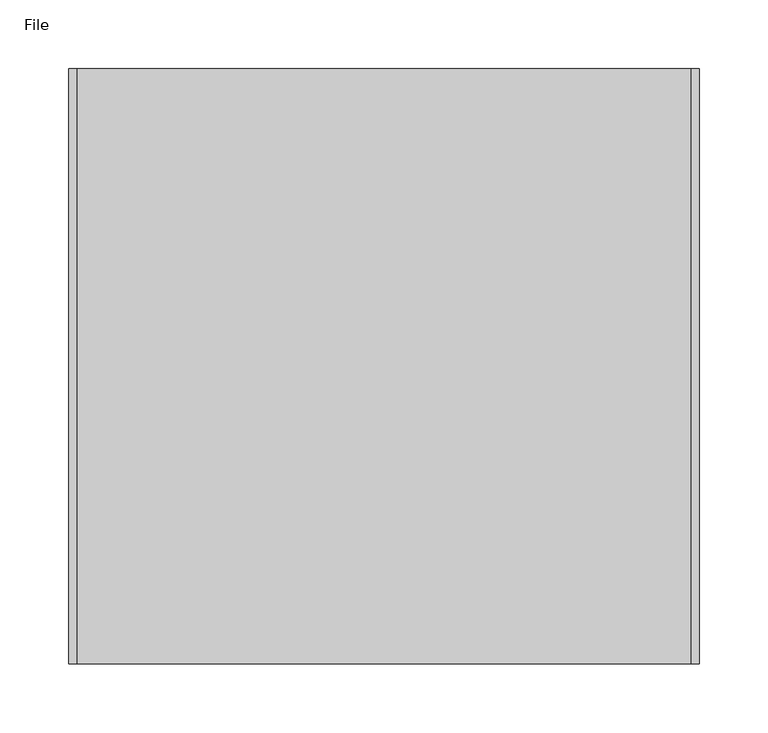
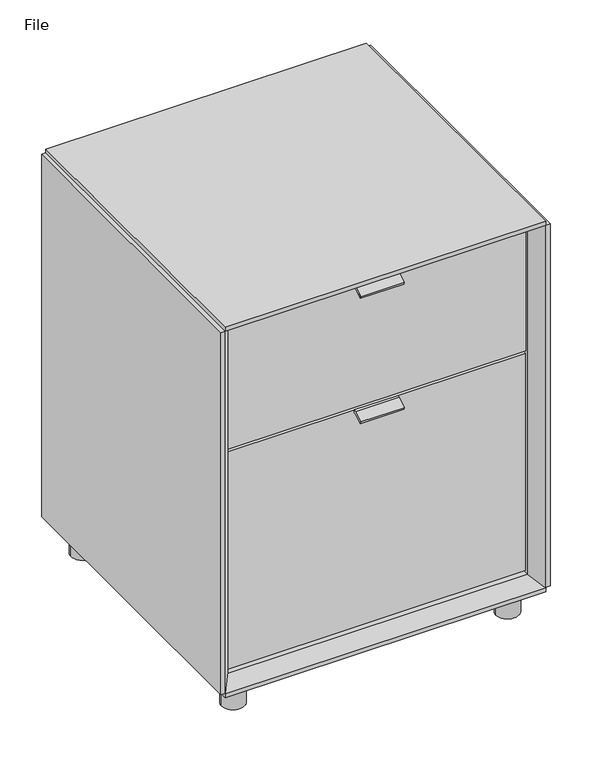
"""IFC4 building model written with IfcOpenShell, lengths in millimetres: furniture geometry, Blu Dot - Dang - File Pedestal : File."""

import ifcopenshell
import ifcopenshell.guid

model = None  # the IFC model being written
_history = None  # IfcOwnerHistory: only IFC2X3 demands one
_inside = {}  # id of a spatial element -> (the spatial element, [elements in it])
_under = {}  # id of a project, library or spatial element -> (it, [spatial elements below it])
_declared = {}  # id of a project -> (the project, [libraries it declares])
_typed = {}  # id of a type object -> (the type object, [elements of that type])
_made_of = {}  # id of a material, layer set ... -> (it, [elements and type objects made of it])


def new_model(schema):
    """Start an empty IFC model of exactly this schema.

    Asked for "IFC4X3", IfcOpenShell would pick the latest addendum, in which some entities
    have other attributes; the version numbers below select the first issue.
    IFC2X3 requires an IfcOwnerHistory on every rooted entity: one is made here for all.
    """
    global model, _history
    if schema == "IFC4X3":
        model = ifcopenshell.file(schema_version=(4, 3, 0, 0))
    else:
        model = ifcopenshell.file(schema=schema)
    _inside.clear()
    _under.clear()
    _declared.clear()
    _typed.clear()
    _made_of.clear()
    _history = None
    if model.schema == "IFC2X3":
        org = make("IfcOrganization", Name="unknown")
        user = make(
            "IfcPersonAndOrganization",
            ThePerson=make("IfcPerson", FamilyName="unknown"),
            TheOrganization=org,
        )
        app = make(
            "IfcApplication",
            ApplicationDeveloper=org,
            Version="unknown",
            ApplicationFullName="unknown",
            ApplicationIdentifier="unknown",
        )
        _history = make(
            "IfcOwnerHistory",
            OwningUser=user,
            OwningApplication=app,
            ChangeAction="ADDED",
            CreationDate=0,
        )
    return model


def make(cls, **values):
    """One entity of the class cls with the attributes given. An attribute that is None is left unset."""
    return model.create_entity(
        cls, **{name: value for name, value in values.items() if value is not None}
    )


def rooted(cls, **values):
    """An entity with a GlobalId (a new one), such as an element, a storey or a relation."""
    return make(cls, GlobalId=ifcopenshell.guid.new(), OwnerHistory=_history, **values)


def si_unit(unit_type, name, prefix=None):
    """IfcSIUnit, for example si_unit("LENGTHUNIT", "METRE", prefix="MILLI")."""
    return make("IfcSIUnit", UnitType=unit_type, Prefix=prefix, Name=name)


def assignment(units):
    """IfcUnitAssignment: the units of a project."""
    return None if units is None else make("IfcUnitAssignment", Units=units)


def point(xyz):
    """IfcCartesianPoint."""
    return None if xyz is None else make("IfcCartesianPoint", Coordinates=xyz)


def direction(xyz):
    """IfcDirection."""
    return None if xyz is None else make("IfcDirection", DirectionRatios=xyz)


def frame(location, z_axis=None, x_axis=None):
    """IfcAxis2Placement3D, a coordinate frame: its origin and axes. An axis left out is left unset."""
    return make(
        "IfcAxis2Placement3D",
        Location=point(location),
        Axis=direction(z_axis),
        RefDirection=direction(x_axis),
    )


def frame_2d(location, x_axis=None):
    """IfcAxis2Placement2D, a coordinate frame in the plane: its origin and x axis."""
    return make(
        "IfcAxis2Placement2D", Location=point(location), RefDirection=direction(x_axis)
    )


def origin():
    """The frame at (0, 0, 0) with its axes left unset."""
    return frame((0.0, 0.0, 0.0))


def origin_with_axes():
    """The frame at (0, 0, 0) with the z axis (0, 0, 1) and the x axis (1, 0, 0) written out."""
    return frame((0.0, 0.0, 0.0), z_axis=(0.0, 0.0, 1.0), x_axis=(1.0, 0.0, 0.0))


def place(relative_to, where):
    """IfcLocalPlacement: puts the frame where relative to a parent placement (None: the world)."""
    return make(
        "IfcLocalPlacement", PlacementRelTo=relative_to, RelativePlacement=where
    )


def context(
    kind, dimensions, precision=None, world=None, true_north=None, identifier=None
):
    """IfcGeometricRepresentationContext, for example the 3D "Model" context."""
    return make(
        "IfcGeometricRepresentationContext",
        ContextIdentifier=identifier,
        ContextType=kind,
        CoordinateSpaceDimension=dimensions,
        Precision=precision,
        WorldCoordinateSystem=world,
        TrueNorth=true_north,
    )


def project(units=None, contexts=None):
    """IfcProject with its units and contexts."""
    return rooted(
        "IfcProject",
        Name="project",
        RepresentationContexts=contexts,
        UnitsInContext=assignment(units),
    )


def spatial(cls, under=None, at=None, **own):
    """A site, building, storey or space (cls), placed at a placement, below another one or the project."""
    s = rooted(cls, ObjectPlacement=at, **own)
    if under is not None:
        _under.setdefault(under.id(), (under, []))[1].append(s)
    return s


def polyline(points):
    """IfcPolyline through the points."""
    return make("IfcPolyline", Points=[point(p) for p in points])


def circle_curve(where, radius):
    """IfcCircle in the frame where."""
    return make("IfcCircle", Position=where, Radius=radius)


def trimmed(basis, trim1, trim2, sense, master):
    """IfcTrimmedCurve: the piece of a basis curve between two trims."""
    return make(
        "IfcTrimmedCurve",
        BasisCurve=basis,
        Trim1=trim1,
        Trim2=trim2,
        SenseAgreement=sense,
        MasterRepresentation=master,
    )


def segment(curve, same_sense, transition):
    """IfcCompositeCurveSegment."""
    return make(
        "IfcCompositeCurveSegment",
        Transition=transition,
        SameSense=same_sense,
        ParentCurve=curve,
    )


def composite_curve(segments, self_intersect=None):
    """IfcCompositeCurve: segments joined end to end."""
    return make("IfcCompositeCurve", Segments=segments, SelfIntersect=self_intersect)


def outline(outer, holes=None, kind="AREA"):
    """IfcArbitraryClosedProfileDef: a profile drawn as a closed curve; with holes, ...WithVoids."""
    if holes is None:
        return make("IfcArbitraryClosedProfileDef", ProfileType=kind, OuterCurve=outer)
    return make(
        "IfcArbitraryProfileDefWithVoids",
        ProfileType=kind,
        OuterCurve=outer,
        InnerCurves=holes,
    )


def extrude(swept, where, along, depth):
    """IfcExtrudedAreaSolid: the profile swept, set in the frame where, extruded along a direction by depth."""
    return make(
        "IfcExtrudedAreaSolid",
        SweptArea=swept,
        Position=where,
        ExtrudedDirection=direction(along),
        Depth=depth,
    )


def faces_of(points, faces, orient=None, outer=None):
    """IfcFace entities. A face is a list of loops; a loop is a list of indices into points, from 0.

    orient and outer hold one flag for each loop. By default every Orientation is true, the
    first loop of a face is its IfcFaceOuterBound and the others are IfcFaceBound.
    """
    made = []
    for i, loops in enumerate(faces):
        bounds = []
        for j, loop in enumerate(loops):
            is_outer = j == 0 if outer is None else outer[i][j]
            bounds.append(
                make(
                    "IfcFaceOuterBound" if is_outer else "IfcFaceBound",
                    Bound=make("IfcPolyLoop", Polygon=[points[k] for k in loop]),
                    Orientation=True if orient is None else orient[i][j],
                )
            )
        made.append(make("IfcFace", Bounds=bounds))
    return made


def faceted_brep(points, faces, orient=None, outer=None, voids=None):
    """IfcFacetedBrep: a solid bounded by flat faces; with voids (closed shells), ...WithVoids."""
    shared = [point(p) for p in points]
    hull = make("IfcClosedShell", CfsFaces=faces_of(shared, faces, orient, outer))
    if voids is None:
        return make("IfcFacetedBrep", Outer=hull)
    return make(
        "IfcFacetedBrepWithVoids",
        Outer=hull,
        Voids=[
            make(cls, CfsFaces=faces_of(shared, fs, o, b)) for cls, fs, o, b in voids
        ],
    )


def shape(context_of_items, identifier, shape_type, items):
    """IfcShapeRepresentation: the items that make up one representation, for example the "Body"."""
    return make(
        "IfcShapeRepresentation",
        ContextOfItems=context_of_items,
        RepresentationIdentifier=identifier,
        RepresentationType=shape_type,
        Items=items,
    )


def source(mapping_origin, context_of_items, identifier, shape_type, items):
    """IfcRepresentationMap: a shape defined once, which mapped items show again and again."""
    return make(
        "IfcRepresentationMap",
        MappingOrigin=mapping_origin,
        MappedRepresentation=shape(context_of_items, identifier, shape_type, items),
    )


def transform(
    local_origin,
    x_axis=None,
    y_axis=None,
    z_axis=None,
    scale=None,
    scale2=None,
    scale3=None,
    uniform=True,
):
    """IfcCartesianTransformationOperator3D, or its non-uniform kind. x_axis, y_axis, z_axis: its Axis1, 2, 3."""
    if uniform:
        return make(
            "IfcCartesianTransformationOperator3D",
            Axis1=direction(x_axis),
            Axis2=direction(y_axis),
            LocalOrigin=point(local_origin),
            Scale=scale,
            Axis3=direction(z_axis),
        )
    return make(
        "IfcCartesianTransformationOperator3DnonUniform",
        Axis1=direction(x_axis),
        Axis2=direction(y_axis),
        LocalOrigin=point(local_origin),
        Scale=scale,
        Axis3=direction(z_axis),
        Scale2=scale2,
        Scale3=scale3,
    )


def mapped(mapping_source, mapping_target):
    """IfcMappedItem: shows the shape of a source again, moved by a transform."""
    return make(
        "IfcMappedItem", MappingSource=mapping_source, MappingTarget=mapping_target
    )


def made_of(thing, what):
    """Note that an element or type object is made of a material, layer set ...; save() writes the relation."""
    if what is not None:
        _made_of.setdefault(what.id(), (what, []))[1].append(thing)
    return thing


def element(
    cls,
    number,
    at=None,
    inside=None,
    cuts=None,
    type_object=None,
    material=None,
    context=None,
    identifier="Body",
    shape_type=None,
    held_by="IfcProductDefinitionShape",
    body=None,
    shapes=None,
    **own,
):
    """One element of the class cls, such as IfcWall. Its Tag is "e" and its number.

    at: its placement. inside: the storey or other place that contains it. cuts: it is an
    opening in that element (IfcRelVoidsElement). A single representation is given by context,
    identifier, shape_type and body (its items); several are given by shapes. held_by: the class
    of the entity that holds the representations. save() writes the other relations.
    """
    e = rooted(cls, Tag="e%d" % number, ObjectPlacement=at, **own)
    if body is not None:
        shapes = [shape(context, identifier, shape_type, body)]
    if shapes is not None:
        e.Representation = make(held_by, Representations=shapes)
    if inside is not None:
        _inside.setdefault(inside.id(), (inside, []))[1].append(e)
    if cuts is not None:
        rooted(
            "IfcRelVoidsElement", RelatingBuildingElement=cuts, RelatedOpeningElement=e
        )
    if type_object is not None:
        _typed.setdefault(type_object.id(), (type_object, []))[1].append(e)
    return made_of(e, material)


def aggregate(whole, parts):
    """IfcRelAggregates: a whole, such as a stair, and the parts it consists of."""
    return rooted("IfcRelAggregates", RelatingObject=whole, RelatedObjects=parts)


def save(model, path):
    """Write the relations noted so far, then the file.

    IfcRelAggregates (storeys below a building ...), IfcRelContainedInSpatialStructure (elements
    in a storey), IfcRelDefinesByType, IfcRelAssociatesMaterial and IfcRelDeclares: one each for
    every whole, place, type object, material and project.
    """
    for whole, parts in _under.values():
        aggregate(whole, parts)
    for where, things in _inside.values():
        rooted(
            "IfcRelContainedInSpatialStructure",
            RelatedElements=things,
            RelatingStructure=where,
        )
    for kind, things in _typed.values():
        rooted("IfcRelDefinesByType", RelatedObjects=things, RelatingType=kind)
    for what, things in _made_of.values():
        rooted("IfcRelAssociatesMaterial", RelatedObjects=things, RelatingMaterial=what)
    for by, libraries in _declared.values():
        rooted("IfcRelDeclares", RelatingContext=by, RelatedDefinitions=libraries)
    model.write(path)


def file_2879ee58(model_context):
    return source(origin(), model_context, "Body", "SolidModel", [
        extrude(outline(polyline([(-412.2407166, 380.7942387), (-408.6708764, 381.5261307), (-408.6708764, 377.1162618), (-412.2407166, 376.3843698), (-423.0343294, 369.6979188), (-424.8980291, 373.6946358), (-412.2407166, 380.7942387)])), frame((198.3994054, 0.0, 0.0), z_axis=(1.0, 0.0, 0.0), x_axis=(0.0, 1.0, 0.0)), (0.0, 0.0, 1.0), 60.4011869),
        extrude(outline(polyline([(-412.2407166, 564.9940348), (-408.6708764, 565.7259267), (-408.6708764, 561.3160578), (-412.2407166, 560.5841659), (-423.0343294, 553.8977149), (-424.8980291, 557.8944318), (-412.2407166, 564.9940348)])), frame((198.3994054, 0.0, 0.0), z_axis=(1.0, 0.0, 0.0), x_axis=(0.0, 1.0, 0.0)), (0.0, 0.0, 1.0), 60.4011869),
        extrude(outline(polyline([(436.7683256, -398.0537011), (436.7683256, -408.6708964), (20.4316744, -408.6708964), (20.4316744, -398.0537011), (436.7683256, -398.0537011)])), frame((0.0, 0.0, 385.1623549), z_axis=(0.0, 0.0, 1.0), x_axis=(1.0, 0.0, 0.0)), (0.0, 0.0, 1.0), 180.5635718),
        faceted_brep([(451.0946314, -431.8, 584.2), (451.0946314, -431.8, 578.4259267), (451.0946314, 0.0, 578.4259267), (451.0946314, 0.0, 584.2), (451.0946314, -431.8, 40.0253458), (451.0946314, 0.0, 40.0253458), (451.0946314, 0.0, 46.5473859), (451.0946314, -430.7489343, 46.5473859), (451.0946314, -431.8, 45.7994191), (6.1053686, -431.8, 584.2), (6.1053686, 0.0, 584.2), (6.1053686, 0.0, 578.4259267), (6.1053686, -431.8, 578.4259267), (6.1053686, -431.8, 40.0253458), (6.1053686, -431.8, 45.7994191), (6.1053686, -430.7489343, 46.5473859), (6.1053686, 0.0, 46.5473859), (6.1053686, 0.0, 40.0253458), (20.4316744, -412.7826643, 565.7259267), (436.7683256, -412.7826643, 565.7259267), (20.4316744, 0.0, 565.7259267), (436.7683256, 0.0, 565.7259267), (457.2, 0.0, 578.4259267), (457.2, 0.0, 46.5473859), (0.0, 0.0, 46.5473859), (0.0, 0.0, 578.4259267), (20.4316744, 0.0, 59.3326708), (436.7683256, 0.0, 59.3326708), (0.0, -431.8, 578.4259267), (457.2, -431.8, 578.4259267), (6.1053686, -431.8, 46.5473859), (0.0, -431.8, 46.5473859), (6.8971666, -430.7489343, 46.5473859), (457.2, -431.8, 46.5473859), (451.0946314, -431.8, 46.5473859), (450.3028334, -430.7489343, 46.5473859), (20.4316744, -412.7826643, 59.3326708), (436.7683256, -412.7826643, 59.3326708)], [[[0, 1, 2, 3]], [[4, 5, 6, 7, 8]], [[9, 10, 11, 12]], [[13, 14, 15, 16, 17]], [[1, 0, 9, 12]], [[1, 12, 18, 19]], [[19, 18, 20, 21]], [[10, 3, 2, 22, 23, 6, 5, 17, 16, 24, 25, 11], [20, 26, 27, 21]], [[0, 3, 10, 9]], [[25, 28, 12, 11]], [[1, 29, 22, 2]], [[30, 31, 24, 16, 15, 32]], [[23, 33, 34, 35, 7, 6]], [[12, 30, 32, 36, 18]], [[26, 20, 18, 36]], [[28, 25, 24, 31]], [[12, 28, 31, 30]], [[29, 1, 34, 33]], [[22, 29, 33, 23]], [[21, 27, 37, 19]], [[34, 1, 19, 37, 35]], [[5, 4, 13, 17]], [[27, 26, 36, 37]], [[14, 8, 7, 35, 37, 36, 32, 15]], [[4, 8, 14, 13]]]),
        extrude(outline(polyline([(436.7683256, -26.5600457), (20.4316744, -26.5600457), (20.4316744, 0.0), (436.7683256, 0.0), (436.7683256, -26.5600457)])), frame((0.0, 0.0, 59.3326708), z_axis=(0.0, 0.0, 1.0), x_axis=(1.0, 0.0, 0.0)), (0.0, 0.0, 1.0), 506.3932559),
        extrude(outline(polyline([(436.7683256, -398.0537011), (436.7683256, -408.6708764), (20.4316744, -408.6708764), (20.4316744, -398.0537011), (436.7683256, -398.0537011)])), frame((0.0, 0.0, 62.4432006), z_axis=(0.0, 0.0, 1.0), x_axis=(1.0, 0.0, 0.0)), (0.0, 0.0, 1.0), 319.0829301),
        extrude(outline(composite_curve([segment(trimmed(circle_curve(frame_2d((37.9502817, -394.9197354)), 16.002), [point((21.9482817, -394.9197354))], [point((53.9522817, -394.9197354))], False, "CARTESIAN"), True, "CONTINUOUS"), segment(trimmed(circle_curve(frame_2d((37.9502817, -394.9197354)), 16.002), [point((53.9522817, -394.9197354))], [point((21.9482817, -394.9197354))], False, "CARTESIAN"), True, "CONTINUOUS")], self_intersect=False)), origin_with_axes(), (0.0, 0.0, 1.0), 40.0253458),
        extrude(outline(composite_curve([segment(trimmed(circle_curve(frame_2d((419.2497183, -394.9197354)), 16.002), [point((403.2477183, -394.9197354))], [point((435.2517183, -394.9197354))], False, "CARTESIAN"), True, "CONTINUOUS"), segment(trimmed(circle_curve(frame_2d((419.2497183, -394.9197354)), 16.002), [point((435.2517183, -394.9197354))], [point((403.2477183, -394.9197354))], False, "CARTESIAN"), True, "CONTINUOUS")], self_intersect=False)), origin_with_axes(), (0.0, 0.0, 1.0), 40.0253458),
        extrude(outline(composite_curve([segment(trimmed(circle_curve(frame_2d((37.9502817, -32.4542423)), 16.0175133), [point((21.9327683, -32.4542423))], [point((53.967795, -32.4542423))], False, "CARTESIAN"), True, "CONTINUOUS"), segment(trimmed(circle_curve(frame_2d((37.9502817, -32.4542423)), 16.0175133), [point((53.967795, -32.4542423))], [point((21.9327683, -32.4542423))], False, "CARTESIAN"), True, "CONTINUOUS")], self_intersect=False)), origin_with_axes(), (0.0, 0.0, 1.0), 40.0253458),
        extrude(outline(composite_curve([segment(trimmed(circle_curve(frame_2d((419.2497183, -32.4542423)), 16.002), [point((403.2477183, -32.4542423))], [point((435.2517183, -32.4542423))], False, "CARTESIAN"), True, "CONTINUOUS"), segment(trimmed(circle_curve(frame_2d((419.2497183, -32.4542423)), 16.002), [point((435.2517183, -32.4542423))], [point((403.2477183, -32.4542423))], False, "CARTESIAN"), True, "CONTINUOUS")], self_intersect=False)), origin_with_axes(), (0.0, 0.0, 1.0), 40.0253458),
    ])


if __name__ == "__main__":
    model = new_model("IFC4")
    model_context = context("Model", 3, world=origin())
    ifc_project = project(units=[si_unit("LENGTHUNIT", "METRE", prefix="MILLI")], contexts=[model_context])
    site = spatial("IfcSite", under=ifc_project)
    building = spatial("IfcBuilding", under=site)
    placement = place(None, origin())
    file_shape = file_2879ee58(model_context)
    element("IfcFurniture", 1, ObjectType="Blu Dot - Dang - File Pedestal : File", at=placement, inside=building, context=model_context, shape_type="MappedRepresentation", body=[
        mapped(file_shape, transform((0.0, 0.0, 0.0), x_axis=(1.0, 0.0, 0.0), y_axis=(0.0, 1.0, 0.0), z_axis=(0.0, 0.0, 1.0))),
    ])
    save(model, "model.ifc")
